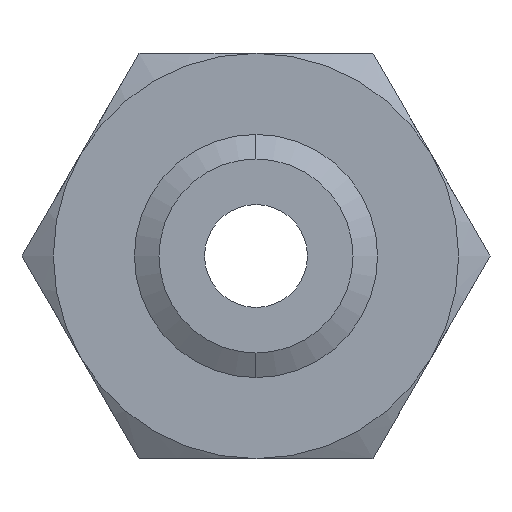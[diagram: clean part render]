
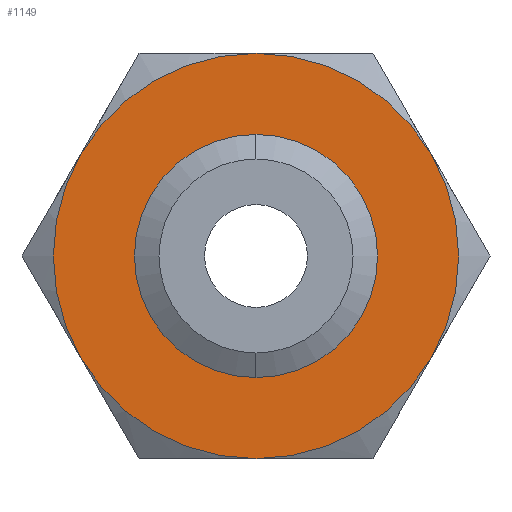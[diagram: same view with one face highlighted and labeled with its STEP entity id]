
A CAD part, front view. The second image highlights one B-rep face of the part: STEP entity #1149.
In plain terms, the highlighted planar face has unit normal (0, -1, 0).
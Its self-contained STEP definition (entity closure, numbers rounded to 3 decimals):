
#421 = DIRECTION ( 'NONE',  ( 0., 0., 1. ) ) ;
#422 = DIRECTION ( 'NONE',  ( 0., 1., 0. ) ) ;
#423 = CARTESIAN_POINT ( 'NONE',  ( 0., 0., 0. ) ) ;
#424 = AXIS2_PLACEMENT_3D ( 'NONE', #423, #422, #421 ) ;
#425 = CIRCLE ( 'NONE', #424, 25. ) ;
#427 = CARTESIAN_POINT ( 'NONE',  ( 21.651, 0., 12.5 ) ) ;
#428 = CARTESIAN_POINT ( 'NONE',  ( 0., 0., 25. ) ) ;
#429 = DIRECTION ( 'NONE',  ( 0., 0., 1. ) ) ;
#430 = DIRECTION ( 'NONE',  ( 0., 1., 0. ) ) ;
#431 = CARTESIAN_POINT ( 'NONE',  ( 0., 0., 0. ) ) ;
#432 = AXIS2_PLACEMENT_3D ( 'NONE', #431, #430, #429 ) ;
#433 = CIRCLE ( 'NONE', #432, 25. ) ;
#434 = CARTESIAN_POINT ( 'NONE',  ( -21.651, 0., 12.5 ) ) ;
#838 = CARTESIAN_POINT ( 'NONE',  ( -21.651, 0., -12.5 ) ) ;
#864 = CARTESIAN_POINT ( 'NONE',  ( 0., 0., 11.969 ) ) ;
#915 = DIRECTION ( 'NONE',  ( 0., 0., -1. ) ) ;
#916 = DIRECTION ( 'NONE',  ( 0., -1., 0. ) ) ;
#917 = CARTESIAN_POINT ( 'NONE',  ( 0., 0., 0. ) ) ;
#918 = AXIS2_PLACEMENT_3D ( 'NONE', #917, #916, #915 ) ;
#919 = CIRCLE ( 'NONE', #918, 11.969 ) ;
#920 = CARTESIAN_POINT ( 'NONE',  ( 0., 0., -11.969 ) ) ;
#1107 = ORIENTED_EDGE ( 'NONE', *, *, #2119, .F. ) ;
#1110 = EDGE_LOOP ( 'NONE', ( #1107, #1172 ) ) ;
#1112 = VERTEX_POINT ( 'NONE', #1903 ) ;
#1115 = EDGE_CURVE ( 'NONE', #1357, #1118, #1951, .T. ) ;
#1116 = ORIENTED_EDGE ( 'NONE', *, *, #1115, .F. ) ;
#1118 = VERTEX_POINT ( 'NONE', #1946 ) ;
#1120 = ORIENTED_EDGE ( 'NONE', *, *, #1121, .F. ) ;
#1121 = EDGE_CURVE ( 'NONE', #1118, #1112, #1945, .T. ) ;
#1122 = ORIENTED_EDGE ( 'NONE', *, *, #1125, .F. ) ;
#1125 = EDGE_CURVE ( 'NONE', #2100, #1355, #1940, .T. ) ;
#1129 = EDGE_CURVE ( 'NONE', #1112, #2100, #1934, .T. ) ;
#1149 = ADVANCED_FACE ( 'NONE', ( #2018, #2013 ), #2012, .F. ) ;
#1151 = EDGE_LOOP ( 'NONE', ( #1359, #1352, #1122, #2101, #1120, #1116 ) ) ;
#1170 = EDGE_CURVE ( 'NONE', #2115, #2118, #2023, .T. ) ;
#1172 = ORIENTED_EDGE ( 'NONE', *, *, #1170, .F. ) ;
#1352 = ORIENTED_EDGE ( 'NONE', *, *, #1354, .F. ) ;
#1354 = EDGE_CURVE ( 'NONE', #1355, #1356, #433, .T. ) ;
#1355 = VERTEX_POINT ( 'NONE', #434 ) ;
#1356 = VERTEX_POINT ( 'NONE', #428 ) ;
#1357 = VERTEX_POINT ( 'NONE', #427 ) ;
#1358 = EDGE_CURVE ( 'NONE', #1356, #1357, #425, .T. ) ;
#1359 = ORIENTED_EDGE ( 'NONE', *, *, #1358, .F. ) ;
#1903 = CARTESIAN_POINT ( 'NONE',  ( 0., 0., -25. ) ) ;
#1930 = DIRECTION ( 'NONE',  ( 0., 0., 1. ) ) ;
#1931 = DIRECTION ( 'NONE',  ( 0., 1., 0. ) ) ;
#1932 = CARTESIAN_POINT ( 'NONE',  ( 0., 0., 0. ) ) ;
#1933 = AXIS2_PLACEMENT_3D ( 'NONE', #1932, #1931, #1930 ) ;
#1934 = CIRCLE ( 'NONE', #1933, 25. ) ;
#1936 = DIRECTION ( 'NONE',  ( 0., 0., 1. ) ) ;
#1937 = DIRECTION ( 'NONE',  ( 0., 1., 0. ) ) ;
#1938 = CARTESIAN_POINT ( 'NONE',  ( 0., 0., 0. ) ) ;
#1939 = AXIS2_PLACEMENT_3D ( 'NONE', #1938, #1937, #1936 ) ;
#1940 = CIRCLE ( 'NONE', #1939, 25. ) ;
#1941 = DIRECTION ( 'NONE',  ( 0., 0., 1. ) ) ;
#1942 = DIRECTION ( 'NONE',  ( 0., 1., 0. ) ) ;
#1943 = CARTESIAN_POINT ( 'NONE',  ( 0., 0., 0. ) ) ;
#1944 = AXIS2_PLACEMENT_3D ( 'NONE', #1943, #1942, #1941 ) ;
#1945 = CIRCLE ( 'NONE', #1944, 25. ) ;
#1946 = CARTESIAN_POINT ( 'NONE',  ( 21.651, 0., -12.5 ) ) ;
#1947 = DIRECTION ( 'NONE',  ( 0., 0., 1. ) ) ;
#1948 = DIRECTION ( 'NONE',  ( 0., 1., 0. ) ) ;
#1949 = CARTESIAN_POINT ( 'NONE',  ( 0., 0., 0. ) ) ;
#1950 = AXIS2_PLACEMENT_3D ( 'NONE', #1949, #1948, #1947 ) ;
#1951 = CIRCLE ( 'NONE', #1950, 25. ) ;
#2007 = DIRECTION ( 'NONE',  ( 0., 0., 1. ) ) ;
#2008 = DIRECTION ( 'NONE',  ( 0., 1., 0. ) ) ;
#2009 = CARTESIAN_POINT ( 'NONE',  ( 14.434, 0., -25. ) ) ;
#2011 = AXIS2_PLACEMENT_3D ( 'NONE', #2009, #2008, #2007 ) ;
#2012 = PLANE ( 'NONE',  #2011 ) ;
#2013 = FACE_BOUND ( 'NONE', #1110, .T. ) ;
#2018 = FACE_OUTER_BOUND ( 'NONE', #1151, .T. ) ;
#2019 = DIRECTION ( 'NONE',  ( 0., 0., -1. ) ) ;
#2020 = DIRECTION ( 'NONE',  ( 0., -1., 0. ) ) ;
#2021 = CARTESIAN_POINT ( 'NONE',  ( 0., 0., 0. ) ) ;
#2022 = AXIS2_PLACEMENT_3D ( 'NONE', #2021, #2020, #2019 ) ;
#2023 = CIRCLE ( 'NONE', #2022, 11.969 ) ;
#2100 = VERTEX_POINT ( 'NONE', #838 ) ;
#2101 = ORIENTED_EDGE ( 'NONE', *, *, #1129, .F. ) ;
#2115 = VERTEX_POINT ( 'NONE', #864 ) ;
#2118 = VERTEX_POINT ( 'NONE', #920 ) ;
#2119 = EDGE_CURVE ( 'NONE', #2118, #2115, #919, .T. ) ;
